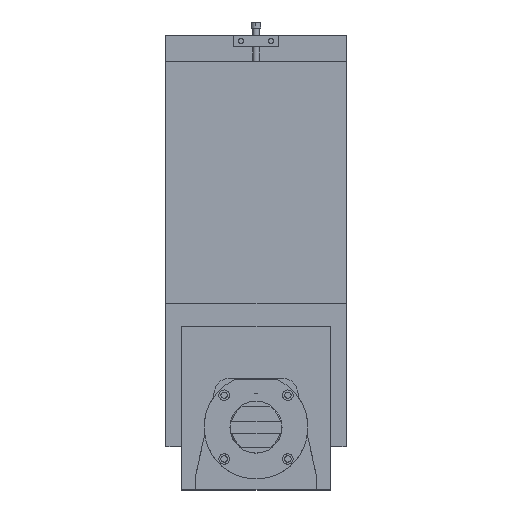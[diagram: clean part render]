
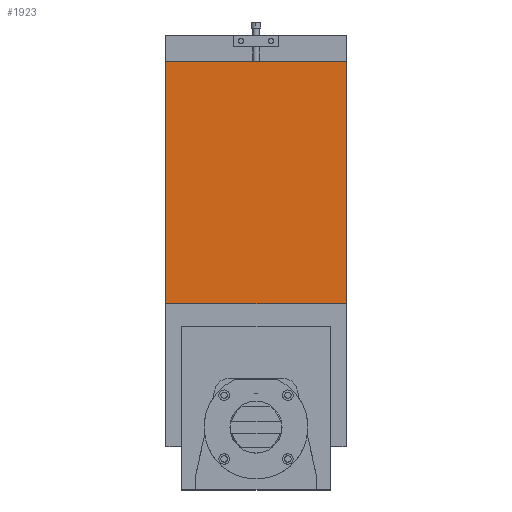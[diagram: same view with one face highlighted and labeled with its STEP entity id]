
A CAD part, top view. The second image highlights one B-rep face of the part: STEP entity #1923.
In plain terms, the highlighted planar face has unit normal (0, 0, 1).
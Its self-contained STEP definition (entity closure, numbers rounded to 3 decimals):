
#1748=CARTESIAN_POINT('',(-120.,164.774,-101.));
#1749=VERTEX_POINT('',#1748);
#1757=CARTESIAN_POINT('',(120.,164.774,-101.));
#1758=VERTEX_POINT('',#1757);
#1765=CARTESIAN_POINT('',(-120.,164.774,-101.));
#1766=DIRECTION('',(1.0,0.0,0.0));
#1767=VECTOR('',#1766,240.);
#1768=LINE('',#1765,#1767);
#1769=EDGE_CURVE('',#1749,#1758,#1768,.T.);
#1780=CARTESIAN_POINT('',(-120.,486.774,-101.0));
#1781=VERTEX_POINT('',#1780);
#1788=CARTESIAN_POINT('',(120.,486.774,-101.0));
#1789=VERTEX_POINT('',#1788);
#1790=CARTESIAN_POINT('',(-120.,486.774,-101.0));
#1791=DIRECTION('',(1.0,0.0,0.0));
#1792=VECTOR('',#1791,240.);
#1793=LINE('',#1790,#1792);
#1794=EDGE_CURVE('',#1781,#1789,#1793,.T.);
#1817=CARTESIAN_POINT('',(120.,486.774,-101.0));
#1818=DIRECTION('',(0.0,-1.0,0.0));
#1819=VECTOR('',#1818,322.0);
#1820=LINE('',#1817,#1819);
#1821=EDGE_CURVE('',#1789,#1758,#1820,.T.);
#1888=CARTESIAN_POINT('',(-120.,164.774,-101.));
#1889=DIRECTION('',(0.0,1.0,0.0));
#1890=VECTOR('',#1889,322.0);
#1891=LINE('',#1888,#1890);
#1892=EDGE_CURVE('',#1749,#1781,#1891,.T.);
#1912=CARTESIAN_POINT('',(0.,230.774,-101.0));
#1913=DIRECTION('',(0.0,0.0,1.0));
#1914=DIRECTION('',(1.0,0.0,0.0));
#1915=AXIS2_PLACEMENT_3D('',#1912,#1913,#1914);
#1916=PLANE('',#1915);
#1917=ORIENTED_EDGE('',*,*,#1769,.T.);
#1918=ORIENTED_EDGE('',*,*,#1821,.F.);
#1919=ORIENTED_EDGE('',*,*,#1794,.F.);
#1920=ORIENTED_EDGE('',*,*,#1892,.F.);
#1921=EDGE_LOOP('',(#1917,#1918,#1919,#1920));
#1922=FACE_OUTER_BOUND('',#1921,.T.);
#1923=ADVANCED_FACE('',(#1922),#1916,.T.);
